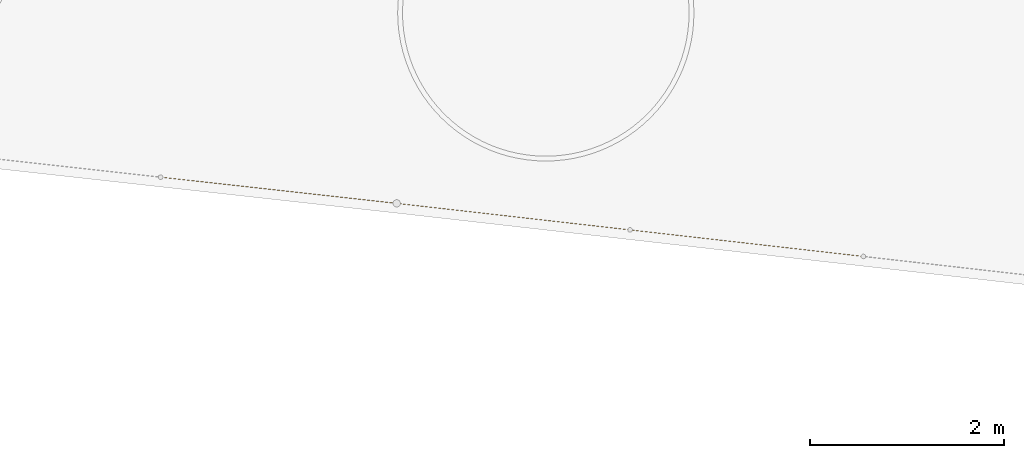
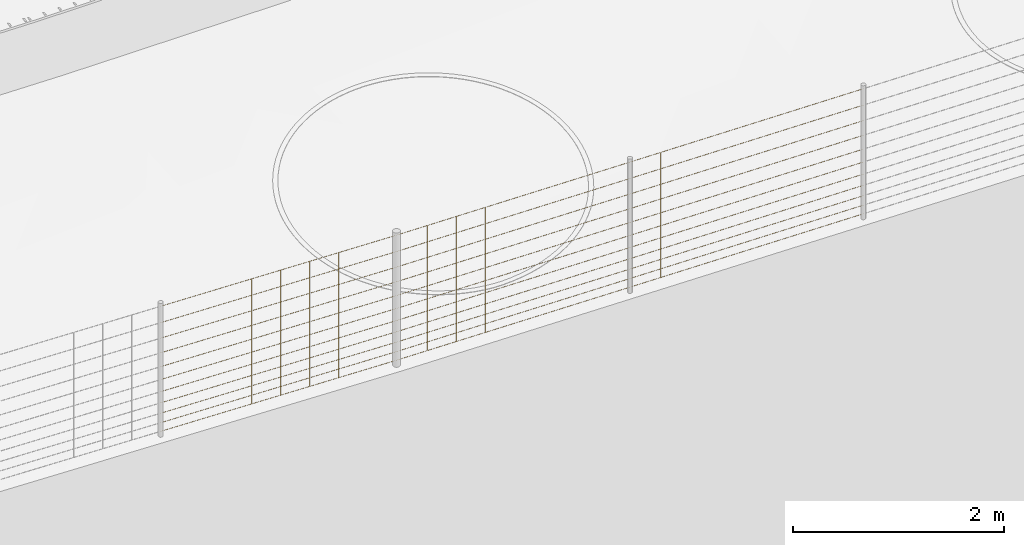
# Not in any storey, part 46 of 72: 3 railings.
"""IFC4 model written with IfcOpenShell, lengths in metres."""

import ifcopenshell
import ifcopenshell.guid

model = None  # the IFC model being written
_history = None  # IfcOwnerHistory: only IFC2X3 demands one
_inside = {}  # id of a spatial element -> (the spatial element, [elements in it])
_under = {}  # id of a project, library or spatial element -> (it, [spatial elements below it])
_declared = {}  # id of a project -> (the project, [libraries it declares])
_typed = {}  # id of a type object -> (the type object, [elements of that type])
_made_of = {}  # id of a material, layer set ... -> (it, [elements and type objects made of it])


def new_model(schema):
    """Start an empty IFC model of exactly this schema.

    Asked for "IFC4X3", IfcOpenShell would pick the latest addendum, in which some entities
    have other attributes; the version numbers below select the first issue.
    IFC2X3 requires an IfcOwnerHistory on every rooted entity: one is made here for all.
    """
    global model, _history
    if schema == "IFC4X3":
        model = ifcopenshell.file(schema_version=(4, 3, 0, 0))
    else:
        model = ifcopenshell.file(schema=schema)
    _inside.clear()
    _under.clear()
    _declared.clear()
    _typed.clear()
    _made_of.clear()
    _history = None
    if model.schema == "IFC2X3":
        org = make("IfcOrganization", Name="unknown")
        user = make(
            "IfcPersonAndOrganization",
            ThePerson=make("IfcPerson", FamilyName="unknown"),
            TheOrganization=org,
        )
        app = make(
            "IfcApplication",
            ApplicationDeveloper=org,
            Version="unknown",
            ApplicationFullName="unknown",
            ApplicationIdentifier="unknown",
        )
        _history = make(
            "IfcOwnerHistory",
            OwningUser=user,
            OwningApplication=app,
            ChangeAction="ADDED",
            CreationDate=0,
        )
    return model


def make(cls, **values):
    """One entity of the class cls with the attributes given. An attribute that is None is left unset."""
    return model.create_entity(
        cls, **{name: value for name, value in values.items() if value is not None}
    )


def rooted(cls, **values):
    """An entity with a GlobalId (a new one), such as an element, a storey or a relation."""
    return make(cls, GlobalId=ifcopenshell.guid.new(), OwnerHistory=_history, **values)


def si_unit(unit_type, name, prefix=None):
    """IfcSIUnit, for example si_unit("LENGTHUNIT", "METRE", prefix="MILLI")."""
    return make("IfcSIUnit", UnitType=unit_type, Prefix=prefix, Name=name)


def assignment(units):
    """IfcUnitAssignment: the units of a project."""
    return None if units is None else make("IfcUnitAssignment", Units=units)


def point(xyz):
    """IfcCartesianPoint."""
    return None if xyz is None else make("IfcCartesianPoint", Coordinates=xyz)


def direction(xyz):
    """IfcDirection."""
    return None if xyz is None else make("IfcDirection", DirectionRatios=xyz)


def frame(location, z_axis=None, x_axis=None):
    """IfcAxis2Placement3D, a coordinate frame: its origin and axes. An axis left out is left unset."""
    return make(
        "IfcAxis2Placement3D",
        Location=point(location),
        Axis=direction(z_axis),
        RefDirection=direction(x_axis),
    )


def origin_with_axes():
    """The frame at (0, 0, 0) with the z axis (0, 0, 1) and the x axis (1, 0, 0) written out."""
    return frame((0.0, 0.0, 0.0), z_axis=(0.0, 0.0, 1.0), x_axis=(1.0, 0.0, 0.0))


def place(relative_to, where):
    """IfcLocalPlacement: puts the frame where relative to a parent placement (None: the world)."""
    return make(
        "IfcLocalPlacement", PlacementRelTo=relative_to, RelativePlacement=where
    )


def context(
    kind, dimensions, precision=None, world=None, true_north=None, identifier=None
):
    """IfcGeometricRepresentationContext, for example the 3D "Model" context."""
    return make(
        "IfcGeometricRepresentationContext",
        ContextIdentifier=identifier,
        ContextType=kind,
        CoordinateSpaceDimension=dimensions,
        Precision=precision,
        WorldCoordinateSystem=world,
        TrueNorth=true_north,
    )


def subcontext(parent, identifier, kind, view, scale=None):
    """IfcGeometricRepresentationSubContext, for example "Body" below "Model"."""
    return make(
        "IfcGeometricRepresentationSubContext",
        ContextIdentifier=identifier,
        ContextType=kind,
        ParentContext=parent,
        TargetScale=scale,
        TargetView=view,
    )


def project(units=None, contexts=None):
    """IfcProject with its units and contexts."""
    return rooted(
        "IfcProject",
        Name="project",
        RepresentationContexts=contexts,
        UnitsInContext=assignment(units),
    )


def spatial(cls, under=None, at=None, **own):
    """A site, building, storey or space (cls), placed at a placement, below another one or the project."""
    s = rooted(cls, ObjectPlacement=at, **own)
    if under is not None:
        _under.setdefault(under.id(), (under, []))[1].append(s)
    return s


def point_list(points):
    """IfcCartesianPointList2D or 3D."""
    cls = (
        "IfcCartesianPointList2D" if len(points[0]) == 2 else "IfcCartesianPointList3D"
    )
    return make(cls, CoordList=points)


def polygons(points, faces, closed=None, point_numbers=None):
    """IfcPolygonalFaceSet: a face is its outer loop, then its inner loops; points numbered from 1."""
    made = []
    for loops in faces:
        if len(loops) == 1:
            made.append(make("IfcIndexedPolygonalFace", CoordIndex=loops[0]))
        else:
            made.append(
                make(
                    "IfcIndexedPolygonalFaceWithVoids",
                    CoordIndex=loops[0],
                    InnerCoordIndices=loops[1:],
                )
            )
    return make(
        "IfcPolygonalFaceSet",
        Coordinates=point_list(points),
        Closed=closed,
        Faces=made,
        PnIndex=point_numbers,
    )


def shape(context_of_items, identifier, shape_type, items):
    """IfcShapeRepresentation: the items that make up one representation, for example the "Body"."""
    return make(
        "IfcShapeRepresentation",
        ContextOfItems=context_of_items,
        RepresentationIdentifier=identifier,
        RepresentationType=shape_type,
        Items=items,
    )


def material(Name=None, Category=None):
    """IfcMaterial."""
    return make("IfcMaterial", Name=Name, Category=Category)


def made_of(thing, what):
    """Note that an element or type object is made of a material, layer set ...; save() writes the relation."""
    if what is not None:
        _made_of.setdefault(what.id(), (what, []))[1].append(thing)
    return thing


def element(
    cls,
    number,
    at=None,
    inside=None,
    cuts=None,
    type_object=None,
    material=None,
    context=None,
    identifier="Body",
    shape_type=None,
    held_by="IfcProductDefinitionShape",
    body=None,
    shapes=None,
    **own,
):
    """One element of the class cls, such as IfcWall. Its Tag is "e" and its number.

    at: its placement. inside: the storey or other place that contains it. cuts: it is an
    opening in that element (IfcRelVoidsElement). A single representation is given by context,
    identifier, shape_type and body (its items); several are given by shapes. held_by: the class
    of the entity that holds the representations. save() writes the other relations.
    """
    e = rooted(cls, Tag="e%d" % number, ObjectPlacement=at, **own)
    if body is not None:
        shapes = [shape(context, identifier, shape_type, body)]
    if shapes is not None:
        e.Representation = make(held_by, Representations=shapes)
    if inside is not None:
        _inside.setdefault(inside.id(), (inside, []))[1].append(e)
    if cuts is not None:
        rooted(
            "IfcRelVoidsElement", RelatingBuildingElement=cuts, RelatedOpeningElement=e
        )
    if type_object is not None:
        _typed.setdefault(type_object.id(), (type_object, []))[1].append(e)
    return made_of(e, material)


def aggregate(whole, parts):
    """IfcRelAggregates: a whole, such as a stair, and the parts it consists of."""
    return rooted("IfcRelAggregates", RelatingObject=whole, RelatedObjects=parts)


def save(model, path):
    """Write the relations noted so far, then the file.

    IfcRelAggregates (storeys below a building ...), IfcRelContainedInSpatialStructure (elements
    in a storey), IfcRelDefinesByType, IfcRelAssociatesMaterial and IfcRelDeclares: one each for
    every whole, place, type object, material and project.
    """
    for whole, parts in _under.values():
        aggregate(whole, parts)
    for where, things in _inside.values():
        rooted(
            "IfcRelContainedInSpatialStructure",
            RelatedElements=things,
            RelatingStructure=where,
        )
    for kind, things in _typed.values():
        rooted("IfcRelDefinesByType", RelatedObjects=things, RelatingType=kind)
    for what, things in _made_of.values():
        rooted("IfcRelAssociatesMaterial", RelatedObjects=things, RelatingMaterial=what)
    for by, libraries in _declared.values():
        rooted("IfcRelDeclares", RelatingContext=by, RelatedDefinitions=libraries)
    model.write(path)


model = new_model("IFC4")

# Units and contexts
model_context = context("Model", 3, precision=1e-05, world=origin_with_axes(), true_north=direction((0.0, 1.0)))
body_context = subcontext(model_context, "Body", "Model", "MODEL_VIEW")
ifc_project = project(units=[si_unit("AREAUNIT", "SQUARE_METRE"), si_unit("VOLUMEUNIT", "CUBIC_METRE"), si_unit("LENGTHUNIT", "METRE")], contexts=[model_context])

# Site
site_placement = place(None, origin_with_axes())
site = spatial("IfcSite", under=ifc_project, at=site_placement, Name="Lares · Rua das Mercês · artigo 4771")

# Railings
ifc_material = material(Name="Aço galvanizado / Stahl verzinkt", Category="steel")
railing_1_placement = place(site_placement, frame((0.0, 0.0, 0.0), z_axis=(0.0, 0.0, 1.0), x_axis=(1.0, -1.03767253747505e-17, 0.0)))
element("IfcRailing", 1, at=railing_1_placement, inside=site, material=ifc_material, Name="Vedação · rede ovelheira 1.011", ObjectType="SHEEP_WIRE_FENCE", PredefinedType="USERDEFINED", context=body_context, shape_type="Tessellation", body=[
    polygons([(64.0885250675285, -4.20330779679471, 14.5939131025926), (64.0884635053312, -4.20481046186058, 14.5924170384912), (64.0881861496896, -4.20628859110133, 14.5939131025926), (64.0882477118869, -4.20478592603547, 14.5954091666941), (61.6862805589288, -3.93017136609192, 14.4184225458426), (61.6862189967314, -3.93167403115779, 14.4169264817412), (61.6859416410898, -3.93315216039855, 14.4184225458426), (61.6860032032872, -3.93164949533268, 14.4199186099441), (64.0885250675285, -4.20330779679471, 14.6939131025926), (64.0884635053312, -4.20481046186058, 14.6924170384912), (64.0881861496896, -4.20628859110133, 14.6939131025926), (64.0882477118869, -4.20478592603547, 14.6954091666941), (61.6862805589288, -3.93017136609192, 14.5184225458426), (61.6862189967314, -3.93167403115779, 14.5169264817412), (61.6859416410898, -3.93315216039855, 14.5184225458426), (61.6860032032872, -3.93164949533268, 14.5199186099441), (64.0885250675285, -4.20330779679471, 14.8039131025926), (64.0884635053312, -4.20481046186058, 14.8024170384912), (64.0881861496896, -4.20628859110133, 14.8039131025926), (64.0882477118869, -4.20478592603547, 14.8054091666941), (61.6862805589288, -3.93017136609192, 14.6284225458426), (61.6862189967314, -3.93167403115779, 14.6269264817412), (61.6859416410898, -3.93315216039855, 14.6284225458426), (61.6860032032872, -3.93164949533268, 14.6299186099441), (64.0885250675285, -4.20330779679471, 14.9239131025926), (64.0884635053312, -4.20481046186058, 14.9224170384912), (64.0881861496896, -4.20628859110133, 14.9239131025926), (64.0882477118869, -4.20478592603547, 14.9254091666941), (61.6862805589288, -3.93017136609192, 14.7484225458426), (61.6862189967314, -3.93167403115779, 14.7469264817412), (61.6859416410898, -3.93315216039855, 14.7484225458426), (61.6860032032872, -3.93164949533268, 14.7499186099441), (64.0885250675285, -4.20330779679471, 15.0539131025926), (64.0884635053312, -4.20481046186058, 15.0524170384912), (64.0881861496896, -4.20628859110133, 15.0539131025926), (64.0882477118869, -4.20478592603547, 15.0554091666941), (61.6862805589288, -3.93017136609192, 14.8784225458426), (61.6862189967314, -3.93167403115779, 14.8769264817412), (61.6859416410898, -3.93315216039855, 14.8784225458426), (61.6860032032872, -3.93164949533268, 14.8799186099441), (64.0885250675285, -4.20330779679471, 15.1939131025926), (64.0884635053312, -4.20481046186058, 15.1924170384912), (64.0881861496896, -4.20628859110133, 15.1939131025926), (64.0882477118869, -4.20478592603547, 15.1954091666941), (61.6862805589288, -3.93017136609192, 15.0184225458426), (61.6862189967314, -3.93167403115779, 15.0169264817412), (61.6859416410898, -3.93315216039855, 15.0184225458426), (61.6860032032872, -3.93164949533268, 15.0199186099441), (64.0885250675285, -4.20330779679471, 15.3439131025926), (64.0884635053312, -4.20481046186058, 15.3424170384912), (64.0881861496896, -4.20628859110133, 15.3439131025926), (64.0882477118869, -4.20478592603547, 15.3454091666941), (61.6862805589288, -3.93017136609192, 15.1684225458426), (61.6862189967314, -3.93167403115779, 15.1669264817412), (61.6859416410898, -3.93315216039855, 15.1684225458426), (61.6860032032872, -3.93164949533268, 15.1699186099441), (64.0885250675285, -4.20330779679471, 15.5039131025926), (64.0884635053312, -4.20481046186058, 15.5024170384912), (64.0881861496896, -4.20628859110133, 15.5039131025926), (64.0882477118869, -4.20478592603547, 15.5054091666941), (61.6862805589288, -3.93017136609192, 15.3284225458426), (61.6862189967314, -3.93167403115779, 15.3269264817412), (61.6859416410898, -3.93315216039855, 15.3284225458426), (61.6860032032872, -3.93164949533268, 15.3299186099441), (64.0885250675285, -4.20330779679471, 15.6739131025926), (64.0884635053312, -4.20481046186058, 15.6724170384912), (64.0881861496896, -4.20628859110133, 15.6739131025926), (64.0882477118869, -4.20478592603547, 15.6754091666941), (61.6862805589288, -3.93017136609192, 15.4984225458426), (61.6862189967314, -3.93167403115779, 15.4969264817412), (61.6859416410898, -3.93315216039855, 15.4984225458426), (61.6860032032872, -3.93164949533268, 15.4999186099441), (64.0885250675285, -4.20330779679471, 15.8539131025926), (64.0884635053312, -4.20481046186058, 15.8524170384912), (64.0881861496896, -4.20628859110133, 15.8539131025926), (64.0882477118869, -4.20478592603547, 15.8554091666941), (61.6862805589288, -3.93017136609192, 15.6784225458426), (61.6862189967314, -3.93167403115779, 15.6769264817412), (61.6859416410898, -3.93315216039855, 15.6784225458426), (61.6860032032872, -3.93164949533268, 15.6799186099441), (64.0885250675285, -4.20330779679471, 16.0439131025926), (64.0884635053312, -4.20481046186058, 16.0424170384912), (64.0881861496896, -4.20628859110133, 16.0439131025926), (64.0882477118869, -4.20478592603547, 16.0454091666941), (61.6862805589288, -3.93017136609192, 15.8684225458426), (61.6862189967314, -3.93167403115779, 15.8669264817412), (61.6859416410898, -3.93315216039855, 15.8684225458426), (61.6860032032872, -3.93164949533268, 15.8699186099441), (63.7902761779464, -4.1694064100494, 14.5721375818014), (63.7887761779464, -4.1709064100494, 14.5721375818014), (63.7902761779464, -4.1724064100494, 14.5721375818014), (63.7917761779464, -4.1709064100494, 14.5721375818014), (63.7902761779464, -4.1694064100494, 16.0221375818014), (63.7887761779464, -4.1709064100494, 16.0221375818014), (63.7902761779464, -4.1724064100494, 16.0221375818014), (63.7917761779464, -4.1709064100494, 16.0221375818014), (63.4921967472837, -4.13551462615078, 14.5503620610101), (63.4906967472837, -4.13701462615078, 14.5503620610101), (63.4921967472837, -4.13851462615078, 14.5503620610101), (63.4936967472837, -4.13701462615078, 14.5503620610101), (63.4921967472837, -4.13551462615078, 16.0003620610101), (63.4906967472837, -4.13701462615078, 16.0003620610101), (63.4921967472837, -4.13851462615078, 16.0003620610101), (63.4936967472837, -4.13701462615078, 16.0003620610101), (63.1941173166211, -4.10162284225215, 14.5285865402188), (63.1926173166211, -4.10312284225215, 14.5285865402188), (63.1941173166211, -4.10462284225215, 14.5285865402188), (63.1956173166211, -4.10312284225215, 14.5285865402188), (63.1941173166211, -4.10162284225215, 15.9785865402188), (63.1926173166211, -4.10312284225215, 15.9785865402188), (63.1941173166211, -4.10462284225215, 15.9785865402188), (63.1956173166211, -4.10312284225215, 15.9785865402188), (62.8960378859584, -4.06773105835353, 14.5068110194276), (62.8945378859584, -4.06923105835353, 14.5068110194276), (62.8960378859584, -4.07073105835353, 14.5068110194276), (62.8975378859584, -4.06923105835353, 14.5068110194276), (62.8960378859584, -4.06773105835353, 15.9568110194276), (62.8945378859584, -4.06923105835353, 15.9568110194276), (62.8960378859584, -4.07073105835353, 15.9568110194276), (62.8975378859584, -4.06923105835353, 15.9568110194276), (62.5979584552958, -4.03383927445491, 14.4850354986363), (62.5964584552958, -4.03533927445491, 14.4850354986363), (62.5979584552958, -4.03683927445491, 14.4850354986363), (62.5994584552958, -4.03533927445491, 14.4850354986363), (62.5979584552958, -4.03383927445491, 15.9350354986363), (62.5964584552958, -4.03533927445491, 15.9350354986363), (62.5979584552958, -4.03683927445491, 15.9350354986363), (62.5994584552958, -4.03533927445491, 15.9350354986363), (62.2998790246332, -3.99994749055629, 14.463259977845), (62.2983790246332, -4.00144749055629, 14.463259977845), (62.2998790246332, -4.00294749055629, 14.463259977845), (62.3013790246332, -4.00144749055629, 14.463259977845), (62.2998790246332, -3.99994749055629, 15.913259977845), (62.2983790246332, -4.00144749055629, 15.913259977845), (62.2998790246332, -4.00294749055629, 15.913259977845), (62.3013790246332, -4.00144749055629, 15.913259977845), (62.0017995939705, -3.96605570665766, 14.4414844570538), (62.0002995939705, -3.96755570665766, 14.4414844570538), (62.0017995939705, -3.96905570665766, 14.4414844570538), (62.0032995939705, -3.96755570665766, 14.4414844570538), (62.0017995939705, -3.96605570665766, 15.8914844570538), (62.0002995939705, -3.96755570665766, 15.8914844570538), (62.0017995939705, -3.96905570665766, 15.8914844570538), (62.0032995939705, -3.96755570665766, 15.8914844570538)], [[[4, 3, 2, 1]], [[5, 6, 7, 8]], [[1, 2, 6, 5]], [[2, 3, 7, 6]], [[3, 4, 8, 7]], [[4, 1, 5, 8]], [[12, 11, 10, 9]], [[13, 14, 15, 16]], [[9, 10, 14, 13]], [[10, 11, 15, 14]], [[11, 12, 16, 15]], [[12, 9, 13, 16]], [[20, 19, 18, 17]], [[21, 22, 23, 24]], [[17, 18, 22, 21]], [[18, 19, 23, 22]], [[19, 20, 24, 23]], [[20, 17, 21, 24]], [[28, 27, 26, 25]], [[29, 30, 31, 32]], [[25, 26, 30, 29]], [[26, 27, 31, 30]], [[27, 28, 32, 31]], [[28, 25, 29, 32]], [[36, 35, 34, 33]], [[37, 38, 39, 40]], [[33, 34, 38, 37]], [[34, 35, 39, 38]], [[35, 36, 40, 39]], [[36, 33, 37, 40]], [[44, 43, 42, 41]], [[45, 46, 47, 48]], [[41, 42, 46, 45]], [[42, 43, 47, 46]], [[43, 44, 48, 47]], [[44, 41, 45, 48]], [[52, 51, 50, 49]], [[53, 54, 55, 56]], [[49, 50, 54, 53]], [[50, 51, 55, 54]], [[51, 52, 56, 55]], [[52, 49, 53, 56]], [[60, 59, 58, 57]], [[61, 62, 63, 64]], [[57, 58, 62, 61]], [[58, 59, 63, 62]], [[59, 60, 64, 63]], [[60, 57, 61, 64]], [[68, 67, 66, 65]], [[69, 70, 71, 72]], [[65, 66, 70, 69]], [[66, 67, 71, 70]], [[67, 68, 72, 71]], [[68, 65, 69, 72]], [[76, 75, 74, 73]], [[77, 78, 79, 80]], [[73, 74, 78, 77]], [[74, 75, 79, 78]], [[75, 76, 80, 79]], [[76, 73, 77, 80]], [[84, 83, 82, 81]], [[85, 86, 87, 88]], [[81, 82, 86, 85]], [[82, 83, 87, 86]], [[83, 84, 88, 87]], [[84, 81, 85, 88]], [[92, 91, 90, 89]], [[93, 94, 95, 96]], [[89, 90, 94, 93]], [[90, 91, 95, 94]], [[91, 92, 96, 95]], [[92, 89, 93, 96]], [[100, 99, 98, 97]], [[101, 102, 103, 104]], [[97, 98, 102, 101]], [[98, 99, 103, 102]], [[99, 100, 104, 103]], [[100, 97, 101, 104]], [[108, 107, 106, 105]], [[109, 110, 111, 112]], [[105, 106, 110, 109]], [[106, 107, 111, 110]], [[107, 108, 112, 111]], [[108, 105, 109, 112]], [[116, 115, 114, 113]], [[117, 118, 119, 120]], [[113, 114, 118, 117]], [[114, 115, 119, 118]], [[115, 116, 120, 119]], [[116, 113, 117, 120]], [[124, 123, 122, 121]], [[125, 126, 127, 128]], [[121, 122, 126, 125]], [[122, 123, 127, 126]], [[123, 124, 128, 127]], [[124, 121, 125, 128]], [[132, 131, 130, 129]], [[133, 134, 135, 136]], [[129, 130, 134, 133]], [[130, 131, 135, 134]], [[131, 132, 136, 135]], [[132, 129, 133, 136]], [[140, 139, 138, 137]], [[141, 142, 143, 144]], [[137, 138, 142, 141]], [[138, 139, 143, 142]], [[139, 140, 144, 143]], [[140, 137, 141, 144]]]),
])
railing_2_placement = place(site_placement, frame((0.0, 0.0, 0.0), z_axis=(0.0, 0.0, 1.0), x_axis=(1.0, -1.03767253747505e-17, 0.0)))
element("IfcRailing", 2, at=railing_2_placement, inside=site, material=ifc_material, Name="Vedação · rede ovelheira 1.012", ObjectType="SHEEP_WIRE_FENCE", PredefinedType="USERDEFINED", context=body_context, shape_type="Tessellation", body=[
    polygons([(61.6862805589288, -3.93017136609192, 14.4184225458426), (61.6862167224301, -3.93167377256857, 14.4169263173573), (61.6859416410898, -3.93315216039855, 14.4184225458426), (61.6860054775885, -3.9316497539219, 14.419918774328), (59.2840360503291, -3.65703493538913, 14.2466499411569), (59.2839722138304, -3.65853734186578, 14.2451537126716), (59.2836971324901, -3.66001572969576, 14.2466499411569), (59.2837609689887, -3.65851332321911, 14.2481461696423), (61.6862805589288, -3.93017136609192, 14.5184225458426), (61.6862167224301, -3.93167377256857, 14.5169263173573), (61.6859416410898, -3.93315216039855, 14.5184225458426), (61.6860054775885, -3.9316497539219, 14.519918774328), (59.2840360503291, -3.65703493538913, 14.3466499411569), (59.2839722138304, -3.65853734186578, 14.3451537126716), (59.2836971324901, -3.66001572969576, 14.3466499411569), (59.2837609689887, -3.65851332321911, 14.3481461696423), (61.6862805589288, -3.93017136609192, 14.6284225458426), (61.6862167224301, -3.93167377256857, 14.6269263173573), (61.6859416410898, -3.93315216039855, 14.6284225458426), (61.6860054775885, -3.9316497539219, 14.629918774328), (59.2840360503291, -3.65703493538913, 14.4566499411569), (59.2839722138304, -3.65853734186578, 14.4551537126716), (59.2836971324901, -3.66001572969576, 14.4566499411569), (59.2837609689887, -3.65851332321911, 14.4581461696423), (61.6862805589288, -3.93017136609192, 14.7484225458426), (61.6862167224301, -3.93167377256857, 14.7469263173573), (61.6859416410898, -3.93315216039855, 14.7484225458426), (61.6860054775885, -3.9316497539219, 14.749918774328), (59.2840360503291, -3.65703493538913, 14.5766499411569), (59.2839722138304, -3.65853734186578, 14.5751537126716), (59.2836971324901, -3.66001572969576, 14.5766499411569), (59.2837609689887, -3.65851332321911, 14.5781461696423), (61.6862805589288, -3.93017136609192, 14.8784225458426), (61.6862167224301, -3.93167377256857, 14.8769263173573), (61.6859416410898, -3.93315216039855, 14.8784225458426), (61.6860054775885, -3.9316497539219, 14.879918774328), (59.2840360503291, -3.65703493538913, 14.7066499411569), (59.2839722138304, -3.65853734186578, 14.7051537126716), (59.2836971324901, -3.66001572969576, 14.7066499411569), (59.2837609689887, -3.65851332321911, 14.7081461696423), (61.6862805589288, -3.93017136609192, 15.0184225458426), (61.6862167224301, -3.93167377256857, 15.0169263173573), (61.6859416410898, -3.93315216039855, 15.0184225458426), (61.6860054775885, -3.9316497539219, 15.019918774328), (59.2840360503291, -3.65703493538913, 14.8466499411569), (59.2839722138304, -3.65853734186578, 14.8451537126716), (59.2836971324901, -3.66001572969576, 14.8466499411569), (59.2837609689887, -3.65851332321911, 14.8481461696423), (61.6862805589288, -3.93017136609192, 15.1684225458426), (61.6862167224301, -3.93167377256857, 15.1669263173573), (61.6859416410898, -3.93315216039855, 15.1684225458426), (61.6860054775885, -3.9316497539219, 15.169918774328), (59.2840360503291, -3.65703493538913, 14.9966499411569), (59.2839722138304, -3.65853734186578, 14.9951537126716), (59.2836971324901, -3.66001572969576, 14.9966499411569), (59.2837609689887, -3.65851332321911, 14.9981461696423), (61.6862805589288, -3.93017136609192, 15.3284225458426), (61.6862167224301, -3.93167377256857, 15.3269263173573), (61.6859416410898, -3.93315216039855, 15.3284225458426), (61.6860054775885, -3.9316497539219, 15.329918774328), (59.2840360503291, -3.65703493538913, 15.1566499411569), (59.2839722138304, -3.65853734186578, 15.1551537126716), (59.2836971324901, -3.66001572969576, 15.1566499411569), (59.2837609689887, -3.65851332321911, 15.1581461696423), (61.6862805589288, -3.93017136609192, 15.4984225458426), (61.6862167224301, -3.93167377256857, 15.4969263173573), (61.6859416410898, -3.93315216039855, 15.4984225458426), (61.6860054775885, -3.9316497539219, 15.499918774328), (59.2840360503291, -3.65703493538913, 15.3266499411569), (59.2839722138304, -3.65853734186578, 15.3251537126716), (59.2836971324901, -3.66001572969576, 15.3266499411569), (59.2837609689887, -3.65851332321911, 15.3281461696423), (61.6862805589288, -3.93017136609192, 15.6784225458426), (61.6862167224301, -3.93167377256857, 15.6769263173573), (61.6859416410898, -3.93315216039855, 15.6784225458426), (61.6860054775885, -3.9316497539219, 15.679918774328), (59.2840360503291, -3.65703493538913, 15.5066499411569), (59.2839722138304, -3.65853734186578, 15.5051537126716), (59.2836971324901, -3.66001572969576, 15.5066499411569), (59.2837609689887, -3.65851332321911, 15.5081461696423), (61.6862805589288, -3.93017136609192, 15.8684225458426), (61.6862167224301, -3.93167377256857, 15.8669263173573), (61.6859416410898, -3.93315216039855, 15.8684225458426), (61.6860054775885, -3.9316497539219, 15.869918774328), (59.2840360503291, -3.65703493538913, 15.6966499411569), (59.2839722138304, -3.65853734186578, 15.6951537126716), (59.2836971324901, -3.66001572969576, 15.6966499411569), (59.2837609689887, -3.65851332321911, 15.6981461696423), (61.3880316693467, -3.89626997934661, 14.3971083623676), (61.3865316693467, -3.89776997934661, 14.3971083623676), (61.3880316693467, -3.89926997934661, 14.3971083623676), (61.3895316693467, -3.89776997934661, 14.3971083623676), (61.3880316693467, -3.89626997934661, 15.8471083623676), (61.3865316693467, -3.89776997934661, 15.8471083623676), (61.3880316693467, -3.89926997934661, 15.8471083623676), (61.3895316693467, -3.89776997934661, 15.8471083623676), (61.089952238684, -3.86237819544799, 14.3757941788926), (61.088452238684, -3.86387819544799, 14.3757941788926), (61.089952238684, -3.86537819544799, 14.3757941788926), (61.091452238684, -3.86387819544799, 14.3757941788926), (61.089952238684, -3.86237819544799, 15.8257941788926), (61.088452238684, -3.86387819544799, 15.8257941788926), (61.089952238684, -3.86537819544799, 15.8257941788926), (61.091452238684, -3.86387819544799, 15.8257941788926), (60.7918728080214, -3.82848641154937, 14.3544799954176), (60.7903728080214, -3.82998641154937, 14.3544799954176), (60.7918728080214, -3.83148641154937, 14.3544799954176), (60.7933728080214, -3.82998641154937, 14.3544799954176), (60.7918728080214, -3.82848641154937, 15.8044799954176), (60.7903728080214, -3.82998641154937, 15.8044799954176), (60.7918728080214, -3.83148641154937, 15.8044799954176), (60.7933728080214, -3.82998641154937, 15.8044799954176), (60.4937933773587, -3.79459462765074, 14.3331658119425), (60.4922933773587, -3.79609462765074, 14.3331658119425), (60.4937933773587, -3.79759462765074, 14.3331658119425), (60.4952933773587, -3.79609462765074, 14.3331658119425), (60.4937933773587, -3.79459462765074, 15.7831658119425), (60.4922933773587, -3.79609462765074, 15.7831658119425), (60.4937933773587, -3.79759462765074, 15.7831658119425), (60.4952933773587, -3.79609462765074, 15.7831658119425), (60.1957139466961, -3.76070284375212, 14.3118516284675), (60.1942139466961, -3.76220284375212, 14.3118516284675), (60.1957139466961, -3.76370284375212, 14.3118516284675), (60.1972139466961, -3.76220284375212, 14.3118516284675), (60.1957139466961, -3.76070284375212, 15.7618516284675), (60.1942139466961, -3.76220284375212, 15.7618516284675), (60.1957139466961, -3.76370284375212, 15.7618516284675), (60.1972139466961, -3.76220284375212, 15.7618516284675), (59.8976345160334, -3.7268110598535, 14.2905374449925), (59.8961345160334, -3.7283110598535, 14.2905374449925), (59.8976345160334, -3.7298110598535, 14.2905374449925), (59.8991345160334, -3.7283110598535, 14.2905374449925), (59.8976345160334, -3.7268110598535, 15.7405374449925), (59.8961345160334, -3.7283110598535, 15.7405374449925), (59.8976345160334, -3.7298110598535, 15.7405374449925), (59.8991345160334, -3.7283110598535, 15.7405374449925), (59.5995550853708, -3.69291927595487, 14.2692232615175), (59.5980550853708, -3.69441927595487, 14.2692232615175), (59.5995550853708, -3.69591927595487, 14.2692232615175), (59.6010550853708, -3.69441927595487, 14.2692232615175), (59.5995550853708, -3.69291927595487, 15.7192232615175), (59.5980550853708, -3.69441927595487, 15.7192232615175), (59.5995550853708, -3.69591927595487, 15.7192232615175), (59.6010550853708, -3.69441927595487, 15.7192232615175)], [[[4, 3, 2, 1]], [[5, 6, 7, 8]], [[1, 2, 6, 5]], [[2, 3, 7, 6]], [[3, 4, 8, 7]], [[4, 1, 5, 8]], [[12, 11, 10, 9]], [[13, 14, 15, 16]], [[9, 10, 14, 13]], [[10, 11, 15, 14]], [[11, 12, 16, 15]], [[12, 9, 13, 16]], [[20, 19, 18, 17]], [[21, 22, 23, 24]], [[17, 18, 22, 21]], [[18, 19, 23, 22]], [[19, 20, 24, 23]], [[20, 17, 21, 24]], [[28, 27, 26, 25]], [[29, 30, 31, 32]], [[25, 26, 30, 29]], [[26, 27, 31, 30]], [[27, 28, 32, 31]], [[28, 25, 29, 32]], [[36, 35, 34, 33]], [[37, 38, 39, 40]], [[33, 34, 38, 37]], [[34, 35, 39, 38]], [[35, 36, 40, 39]], [[36, 33, 37, 40]], [[44, 43, 42, 41]], [[45, 46, 47, 48]], [[41, 42, 46, 45]], [[42, 43, 47, 46]], [[43, 44, 48, 47]], [[44, 41, 45, 48]], [[52, 51, 50, 49]], [[53, 54, 55, 56]], [[49, 50, 54, 53]], [[50, 51, 55, 54]], [[51, 52, 56, 55]], [[52, 49, 53, 56]], [[60, 59, 58, 57]], [[61, 62, 63, 64]], [[57, 58, 62, 61]], [[58, 59, 63, 62]], [[59, 60, 64, 63]], [[60, 57, 61, 64]], [[68, 67, 66, 65]], [[69, 70, 71, 72]], [[65, 66, 70, 69]], [[66, 67, 71, 70]], [[67, 68, 72, 71]], [[68, 65, 69, 72]], [[76, 75, 74, 73]], [[77, 78, 79, 80]], [[73, 74, 78, 77]], [[74, 75, 79, 78]], [[75, 76, 80, 79]], [[76, 73, 77, 80]], [[84, 83, 82, 81]], [[85, 86, 87, 88]], [[81, 82, 86, 85]], [[82, 83, 87, 86]], [[83, 84, 88, 87]], [[84, 81, 85, 88]], [[92, 91, 90, 89]], [[93, 94, 95, 96]], [[89, 90, 94, 93]], [[90, 91, 95, 94]], [[91, 92, 96, 95]], [[92, 89, 93, 96]], [[100, 99, 98, 97]], [[101, 102, 103, 104]], [[97, 98, 102, 101]], [[98, 99, 103, 102]], [[99, 100, 104, 103]], [[100, 97, 101, 104]], [[108, 107, 106, 105]], [[109, 110, 111, 112]], [[105, 106, 110, 109]], [[106, 107, 111, 110]], [[107, 108, 112, 111]], [[108, 105, 109, 112]], [[116, 115, 114, 113]], [[117, 118, 119, 120]], [[113, 114, 118, 117]], [[114, 115, 119, 118]], [[115, 116, 120, 119]], [[116, 113, 117, 120]], [[124, 123, 122, 121]], [[125, 126, 127, 128]], [[121, 122, 126, 125]], [[122, 123, 127, 126]], [[123, 124, 128, 127]], [[124, 121, 125, 128]], [[132, 131, 130, 129]], [[133, 134, 135, 136]], [[129, 130, 134, 133]], [[130, 131, 135, 134]], [[131, 132, 136, 135]], [[132, 129, 133, 136]], [[140, 139, 138, 137]], [[141, 142, 143, 144]], [[137, 138, 142, 141]], [[138, 139, 143, 142]], [[139, 140, 144, 143]], [[140, 137, 141, 144]]]),
])
railing_3_placement = place(site_placement, frame((0.0, 0.0, 0.0), z_axis=(0.0, 0.0, 1.0), x_axis=(1.0, -1.03767253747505e-17, 0.0)))
element("IfcRailing", 3, at=railing_3_placement, inside=site, material=ifc_material, Name="Vedação · rede ovelheira 1.013", ObjectType="SHEEP_WIRE_FENCE", PredefinedType="USERDEFINED", context=body_context, shape_type="Tessellation", body=[
    polygons([(59.2840321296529, -3.65703449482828, 14.2466499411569), (59.2839501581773, -3.65853461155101, 14.2451522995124), (59.2837010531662, -3.66001617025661, 14.2466499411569), (59.2837830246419, -3.65851605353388, 14.2481475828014), (56.853072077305, -3.38710782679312, 14.1093326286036), (56.8529901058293, -3.38860794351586, 14.1078349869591), (56.8527410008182, -3.39008950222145, 14.1093326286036), (56.8528229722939, -3.38858938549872, 14.1108302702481), (59.2840321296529, -3.65703449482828, 14.3466499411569), (59.2839501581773, -3.65853461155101, 14.3451522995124), (59.2837010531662, -3.66001617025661, 14.3466499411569), (59.2837830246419, -3.65851605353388, 14.3481475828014), (56.853072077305, -3.38710782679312, 14.2093326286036), (56.8529901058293, -3.38860794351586, 14.2078349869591), (56.8527410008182, -3.39008950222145, 14.2093326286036), (56.8528229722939, -3.38858938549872, 14.2108302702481), (59.2840321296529, -3.65703449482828, 14.4566499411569), (59.2839501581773, -3.65853461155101, 14.4551522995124), (59.2837010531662, -3.66001617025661, 14.4566499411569), (59.2837830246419, -3.65851605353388, 14.4581475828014), (56.853072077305, -3.38710782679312, 14.3193326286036), (56.8529901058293, -3.38860794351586, 14.3178349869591), (56.8527410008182, -3.39008950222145, 14.3193326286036), (56.8528229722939, -3.38858938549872, 14.3208302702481), (59.2840321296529, -3.65703449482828, 14.5766499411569), (59.2839501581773, -3.65853461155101, 14.5751522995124), (59.2837010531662, -3.66001617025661, 14.5766499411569), (59.2837830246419, -3.65851605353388, 14.5781475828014), (56.853072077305, -3.38710782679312, 14.4393326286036), (56.8529901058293, -3.38860794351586, 14.4378349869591), (56.8527410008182, -3.39008950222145, 14.4393326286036), (56.8528229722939, -3.38858938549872, 14.4408302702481), (59.2840321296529, -3.65703449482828, 14.7066499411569), (59.2839501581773, -3.65853461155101, 14.7051522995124), (59.2837010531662, -3.66001617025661, 14.7066499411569), (59.2837830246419, -3.65851605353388, 14.7081475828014), (56.853072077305, -3.38710782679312, 14.5693326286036), (56.8529901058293, -3.38860794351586, 14.5678349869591), (56.8527410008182, -3.39008950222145, 14.5693326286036), (56.8528229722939, -3.38858938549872, 14.5708302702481), (59.2840321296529, -3.65703449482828, 14.8466499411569), (59.2839501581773, -3.65853461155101, 14.8451522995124), (59.2837010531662, -3.66001617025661, 14.8466499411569), (59.2837830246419, -3.65851605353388, 14.8481475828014), (56.853072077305, -3.38710782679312, 14.7093326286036), (56.8529901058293, -3.38860794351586, 14.7078349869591), (56.8527410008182, -3.39008950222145, 14.7093326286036), (56.8528229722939, -3.38858938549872, 14.7108302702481), (59.2840321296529, -3.65703449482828, 14.9966499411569), (59.2839501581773, -3.65853461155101, 14.9951522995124), (59.2837010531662, -3.66001617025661, 14.9966499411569), (59.2837830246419, -3.65851605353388, 14.9981475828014), (56.853072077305, -3.38710782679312, 14.8593326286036), (56.8529901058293, -3.38860794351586, 14.8578349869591), (56.8527410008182, -3.39008950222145, 14.8593326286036), (56.8528229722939, -3.38858938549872, 14.8608302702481), (59.2840321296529, -3.65703449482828, 15.1566499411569), (59.2839501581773, -3.65853461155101, 15.1551522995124), (59.2837010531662, -3.66001617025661, 15.1566499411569), (59.2837830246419, -3.65851605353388, 15.1581475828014), (56.853072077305, -3.38710782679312, 15.0193326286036), (56.8529901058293, -3.38860794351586, 15.0178349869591), (56.8527410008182, -3.39008950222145, 15.0193326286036), (56.8528229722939, -3.38858938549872, 15.0208302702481), (59.2840321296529, -3.65703449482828, 15.3266499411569), (59.2839501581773, -3.65853461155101, 15.3251522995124), (59.2837010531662, -3.66001617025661, 15.3266499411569), (59.2837830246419, -3.65851605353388, 15.3281475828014), (56.853072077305, -3.38710782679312, 15.1893326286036), (56.8529901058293, -3.38860794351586, 15.1878349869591), (56.8527410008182, -3.39008950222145, 15.1893326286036), (56.8528229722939, -3.38858938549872, 15.1908302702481), (59.2840321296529, -3.65703449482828, 15.5066499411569), (59.2839501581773, -3.65853461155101, 15.5051522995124), (59.2837010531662, -3.66001617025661, 15.5066499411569), (59.2837830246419, -3.65851605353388, 15.5081475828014), (56.853072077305, -3.38710782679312, 15.3693326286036), (56.8529901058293, -3.38860794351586, 15.3678349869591), (56.8527410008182, -3.39008950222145, 15.3693326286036), (56.8528229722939, -3.38858938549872, 15.3708302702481), (59.2840321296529, -3.65703449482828, 15.6966499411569), (59.2839501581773, -3.65853461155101, 15.6951522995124), (59.2837010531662, -3.66001617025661, 15.6966499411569), (59.2837830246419, -3.65851605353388, 15.6981475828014), (56.853072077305, -3.38710782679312, 15.5593326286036), (56.8529901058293, -3.38860794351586, 15.5578349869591), (56.8527410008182, -3.39008950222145, 15.5593326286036), (56.8528229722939, -3.38858938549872, 15.5608302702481), (58.9856990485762, -3.62391768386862, 14.2298073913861), (58.9841990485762, -3.62541768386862, 14.2298073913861), (58.9856990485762, -3.62691768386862, 14.2298073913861), (58.9871990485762, -3.62541768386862, 14.2298073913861), (58.9856990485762, -3.62391768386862, 15.6798073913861), (58.9841990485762, -3.62541768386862, 15.6798073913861), (58.9856990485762, -3.62691768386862, 15.6798073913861), (58.9871990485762, -3.62541768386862, 15.6798073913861), (58.6875315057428, -3.59081003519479, 14.2129648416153), (58.6860315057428, -3.59231003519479, 14.2129648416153), (58.6875315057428, -3.59381003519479, 14.2129648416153), (58.6890315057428, -3.59231003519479, 14.2129648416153), (58.6875315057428, -3.59081003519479, 15.6629648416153), (58.6860315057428, -3.59231003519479, 15.6629648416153), (58.6875315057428, -3.59381003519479, 15.6629648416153), (58.6890315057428, -3.59231003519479, 15.6629648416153), (58.3893639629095, -3.55770238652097, 14.1961222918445), (58.3878639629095, -3.55920238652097, 14.1961222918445), (58.3893639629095, -3.56070238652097, 14.1961222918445), (58.3908639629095, -3.55920238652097, 14.1961222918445), (58.3893639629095, -3.55770238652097, 15.6461222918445), (58.3878639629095, -3.55920238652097, 15.6461222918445), (58.3893639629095, -3.56070238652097, 15.6461222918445), (58.3908639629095, -3.55920238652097, 15.6461222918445), (58.0911964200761, -3.52459473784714, 14.1792797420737), (58.0896964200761, -3.52609473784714, 14.1792797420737), (58.0911964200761, -3.52759473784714, 14.1792797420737), (58.0926964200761, -3.52609473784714, 14.1792797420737), (58.0911964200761, -3.52459473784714, 15.6292797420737), (58.0896964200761, -3.52609473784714, 15.6292797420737), (58.0911964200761, -3.52759473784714, 15.6292797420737), (58.0926964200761, -3.52609473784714, 15.6292797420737), (57.7930288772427, -3.49148708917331, 14.1624371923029), (57.7915288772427, -3.49298708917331, 14.1624371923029), (57.7930288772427, -3.49448708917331, 14.1624371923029), (57.7945288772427, -3.49298708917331, 14.1624371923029), (57.7930288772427, -3.49148708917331, 15.6124371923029), (57.7915288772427, -3.49298708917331, 15.6124371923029), (57.7930288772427, -3.49448708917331, 15.6124371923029), (57.7945288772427, -3.49298708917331, 15.6124371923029), (57.4948613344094, -3.45837944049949, 14.1455946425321), (57.4933613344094, -3.45987944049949, 14.1455946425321), (57.4948613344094, -3.46137944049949, 14.1455946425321), (57.4963613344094, -3.45987944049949, 14.1455946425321), (57.4948613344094, -3.45837944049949, 15.5955946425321), (57.4933613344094, -3.45987944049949, 15.5955946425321), (57.4948613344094, -3.46137944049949, 15.5955946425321), (57.4963613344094, -3.45987944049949, 15.5955946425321), (57.196693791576, -3.42527179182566, 14.1287520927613), (57.195193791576, -3.42677179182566, 14.1287520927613), (57.196693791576, -3.42827179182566, 14.1287520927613), (57.198193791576, -3.42677179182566, 14.1287520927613), (57.196693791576, -3.42527179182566, 15.5787520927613), (57.195193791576, -3.42677179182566, 15.5787520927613), (57.196693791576, -3.42827179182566, 15.5787520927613), (57.198193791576, -3.42677179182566, 15.5787520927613)], [[[4, 3, 2, 1]], [[5, 6, 7, 8]], [[1, 2, 6, 5]], [[2, 3, 7, 6]], [[3, 4, 8, 7]], [[4, 1, 5, 8]], [[12, 11, 10, 9]], [[13, 14, 15, 16]], [[9, 10, 14, 13]], [[10, 11, 15, 14]], [[11, 12, 16, 15]], [[12, 9, 13, 16]], [[20, 19, 18, 17]], [[21, 22, 23, 24]], [[17, 18, 22, 21]], [[18, 19, 23, 22]], [[19, 20, 24, 23]], [[20, 17, 21, 24]], [[28, 27, 26, 25]], [[29, 30, 31, 32]], [[25, 26, 30, 29]], [[26, 27, 31, 30]], [[27, 28, 32, 31]], [[28, 25, 29, 32]], [[36, 35, 34, 33]], [[37, 38, 39, 40]], [[33, 34, 38, 37]], [[34, 35, 39, 38]], [[35, 36, 40, 39]], [[36, 33, 37, 40]], [[44, 43, 42, 41]], [[45, 46, 47, 48]], [[41, 42, 46, 45]], [[42, 43, 47, 46]], [[43, 44, 48, 47]], [[44, 41, 45, 48]], [[52, 51, 50, 49]], [[53, 54, 55, 56]], [[49, 50, 54, 53]], [[50, 51, 55, 54]], [[51, 52, 56, 55]], [[52, 49, 53, 56]], [[60, 59, 58, 57]], [[61, 62, 63, 64]], [[57, 58, 62, 61]], [[58, 59, 63, 62]], [[59, 60, 64, 63]], [[60, 57, 61, 64]], [[68, 67, 66, 65]], [[69, 70, 71, 72]], [[65, 66, 70, 69]], [[66, 67, 71, 70]], [[67, 68, 72, 71]], [[68, 65, 69, 72]], [[76, 75, 74, 73]], [[77, 78, 79, 80]], [[73, 74, 78, 77]], [[74, 75, 79, 78]], [[75, 76, 80, 79]], [[76, 73, 77, 80]], [[84, 83, 82, 81]], [[85, 86, 87, 88]], [[81, 82, 86, 85]], [[82, 83, 87, 86]], [[83, 84, 88, 87]], [[84, 81, 85, 88]], [[92, 91, 90, 89]], [[93, 94, 95, 96]], [[89, 90, 94, 93]], [[90, 91, 95, 94]], [[91, 92, 96, 95]], [[92, 89, 93, 96]], [[100, 99, 98, 97]], [[101, 102, 103, 104]], [[97, 98, 102, 101]], [[98, 99, 103, 102]], [[99, 100, 104, 103]], [[100, 97, 101, 104]], [[108, 107, 106, 105]], [[109, 110, 111, 112]], [[105, 106, 110, 109]], [[106, 107, 111, 110]], [[107, 108, 112, 111]], [[108, 105, 109, 112]], [[116, 115, 114, 113]], [[117, 118, 119, 120]], [[113, 114, 118, 117]], [[114, 115, 119, 118]], [[115, 116, 120, 119]], [[116, 113, 117, 120]], [[124, 123, 122, 121]], [[125, 126, 127, 128]], [[121, 122, 126, 125]], [[122, 123, 127, 126]], [[123, 124, 128, 127]], [[124, 121, 125, 128]], [[132, 131, 130, 129]], [[133, 134, 135, 136]], [[129, 130, 134, 133]], [[130, 131, 135, 134]], [[131, 132, 136, 135]], [[132, 129, 133, 136]], [[140, 139, 138, 137]], [[141, 142, 143, 144]], [[137, 138, 142, 141]], [[138, 139, 143, 142]], [[139, 140, 144, 143]], [[140, 137, 141, 144]]]),
])

save(model, "model.ifc")
